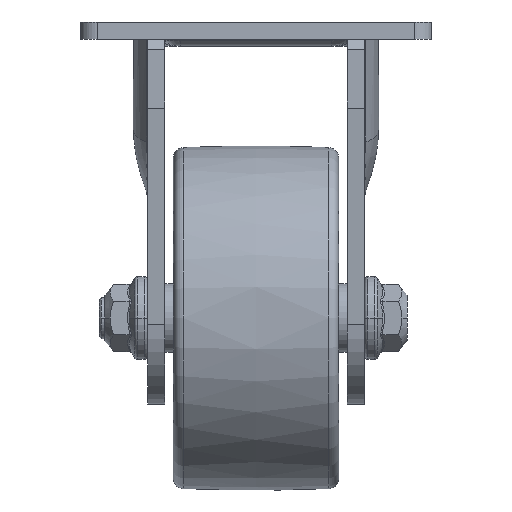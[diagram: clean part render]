
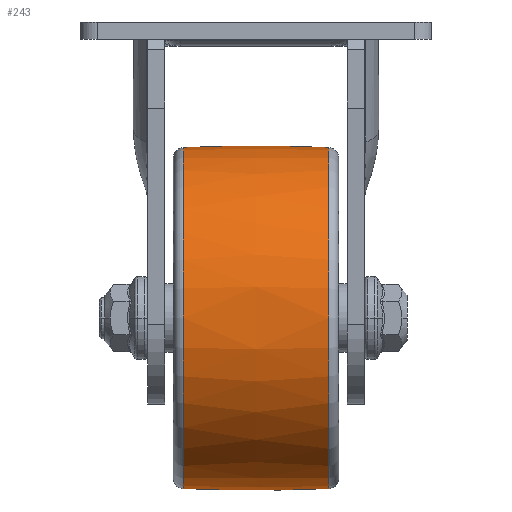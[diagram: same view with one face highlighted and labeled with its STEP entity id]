
A CAD part, left-side view. The second image highlights one B-rep face of the part: STEP entity #243.
In plain terms, the highlighted free-form (B-spline) face has degree [2, 2] with [3, 9] control points.
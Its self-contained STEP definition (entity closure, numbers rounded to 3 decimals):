
#143=CARTESIAN_POINT('',(-36.357,-61.658,-51.446));
#144=VERTEX_POINT('',#143);
#161=CARTESIAN_POINT('',(-36.357,-61.658,-150.553));
#162=VERTEX_POINT('',#161);
#170=CARTESIAN_POINT('',(-36.357,-61.658,-100.999));
#171=DIRECTION('',(0.0,1.0,0.0));
#172=DIRECTION('',(0.0,0.0,1.0));
#173=AXIS2_PLACEMENT_3D('',#170,#171,#172);
#174=CIRCLE('',#173,49.553);
#175=EDGE_CURVE('',#162,#144,#174,.T.);
#180=CARTESIAN_POINT('',(-36.357,-103.911,-150.553));
#181=CARTESIAN_POINT('',(-36.357,-82.785,-151.446));
#182=CARTESIAN_POINT('',(-36.357,-61.658,-150.553));
#183=CARTESIAN_POINT('',(13.196,-103.911,-150.553));
#184=CARTESIAN_POINT('',(14.09,-82.785,-151.446));
#185=CARTESIAN_POINT('',(13.196,-61.658,-150.553));
#186=CARTESIAN_POINT('',(13.196,-103.911,-100.999));
#187=CARTESIAN_POINT('',(14.09,-82.785,-100.999));
#188=CARTESIAN_POINT('',(13.196,-61.658,-100.999));
#189=CARTESIAN_POINT('',(13.196,-103.911,-51.446));
#190=CARTESIAN_POINT('',(14.09,-82.785,-50.552));
#191=CARTESIAN_POINT('',(13.196,-61.658,-51.446));
#192=CARTESIAN_POINT('',(-36.357,-103.911,-51.446));
#193=CARTESIAN_POINT('',(-36.357,-82.785,-50.552));
#194=CARTESIAN_POINT('',(-36.357,-61.658,-51.446));
#195=CARTESIAN_POINT('',(-85.911,-103.911,-51.446));
#196=CARTESIAN_POINT('',(-86.804,-82.785,-50.552));
#197=CARTESIAN_POINT('',(-85.911,-61.658,-51.446));
#198=CARTESIAN_POINT('',(-85.911,-103.911,-100.999));
#199=CARTESIAN_POINT('',(-86.804,-82.785,-100.999));
#200=CARTESIAN_POINT('',(-85.911,-61.658,-100.999));
#201=CARTESIAN_POINT('',(-85.911,-103.911,-150.553));
#202=CARTESIAN_POINT('',(-86.804,-82.785,-151.446));
#203=CARTESIAN_POINT('',(-85.911,-61.658,-150.553));
#204=CARTESIAN_POINT('',(-36.357,-103.911,-150.553));
#205=CARTESIAN_POINT('',(-36.357,-82.785,-151.446));
#206=CARTESIAN_POINT('',(-36.357,-61.658,-150.553));
#214=(BOUNDED_SURFACE()B_SPLINE_SURFACE(2,2,((#180,#183,#186,#189,#192,#195,#198,#201,#204),(#181,#184,#187,#190,#193,#196,#199,#202,#205),(#182,#185,#188,#191,#194,#197,#200,#203,#206)),.UNSPECIFIED.,.F.,.T.,.U.)B_SPLINE_SURFACE_WITH_KNOTS((3,3),(3,2,2,2,3),(-0.042,0.042),(0.0,1.571,3.142,4.712,6.283),.UNSPECIFIED.)GEOMETRIC_REPRESENTATION_ITEM()RATIONAL_B_SPLINE_SURFACE(((1.0,0.707,1.0,0.707,1.0,0.707,1.0,0.707,1.0),(0.999,0.706,0.999,0.706,0.999,0.706,0.999,0.706,0.999),(1.0,0.707,1.0,0.707,1.0,0.707,1.0,0.707,1.0)))REPRESENTATION_ITEM('')SURFACE());
#215=CARTESIAN_POINT('',(-36.357,-103.911,-51.446));
#216=VERTEX_POINT('',#215);
#217=CARTESIAN_POINT('',(-36.357,-82.785,-550.999));
#218=DIRECTION('',(1.0,0.0,0.0));
#219=DIRECTION('',(0.0,0.0,1.0));
#220=AXIS2_PLACEMENT_3D('',#217,#218,#219);
#221=CIRCLE('',#220,500.0);
#222=EDGE_CURVE('',#144,#216,#221,.T.);
#223=ORIENTED_EDGE('',*,*,#222,.F.);
#224=ORIENTED_EDGE('',*,*,#175,.F.);
#225=CARTESIAN_POINT('',(-36.357,-103.911,-150.553));
#226=VERTEX_POINT('',#225);
#227=CARTESIAN_POINT('',(-36.357,-82.785,349.001));
#228=DIRECTION('',(-1.0,0.0,0.0));
#229=DIRECTION('',(0.0,0.0,-1.0));
#230=AXIS2_PLACEMENT_3D('',#227,#228,#229);
#231=CIRCLE('',#230,500.0);
#232=EDGE_CURVE('',#162,#226,#231,.T.);
#233=ORIENTED_EDGE('',*,*,#232,.T.);
#234=CARTESIAN_POINT('',(-36.357,-103.911,-100.999));
#235=DIRECTION('',(0.0,1.0,0.0));
#236=DIRECTION('',(0.0,0.0,1.0));
#237=AXIS2_PLACEMENT_3D('',#234,#235,#236);
#238=CIRCLE('',#237,49.553);
#239=EDGE_CURVE('',#226,#216,#238,.T.);
#240=ORIENTED_EDGE('',*,*,#239,.T.);
#241=EDGE_LOOP('',(#223,#224,#233,#240));
#242=FACE_OUTER_BOUND('',#241,.T.);
#243=ADVANCED_FACE('',(#242),#214,.T.);
